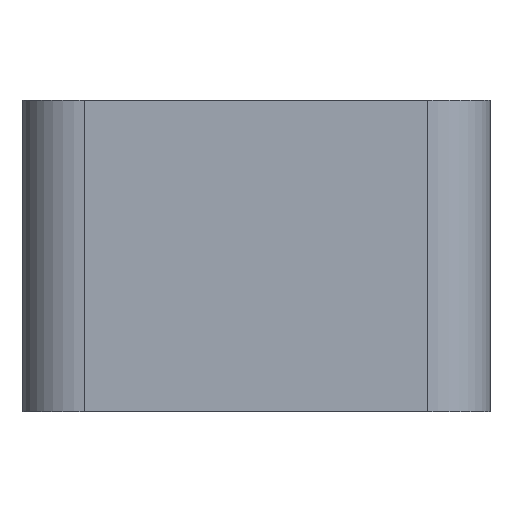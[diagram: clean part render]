
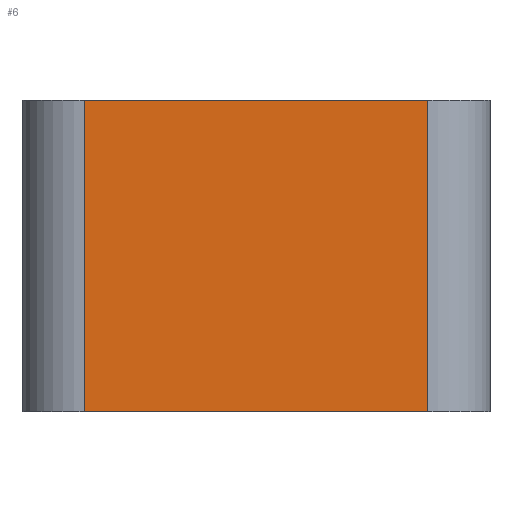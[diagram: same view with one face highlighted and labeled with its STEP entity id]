
A CAD part, front view. The second image highlights one B-rep face of the part: STEP entity #6.
In plain terms, the highlighted planar face has unit normal (0, -1, 0).
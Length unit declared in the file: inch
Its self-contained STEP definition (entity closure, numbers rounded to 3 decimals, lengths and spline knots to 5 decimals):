
#6 = ADVANCED_FACE ( 'NONE', ( #476 ), #350, .F. ) ;
#157 = DIRECTION ( 'NONE',  ( 0., 0., -1. ) ) ;
#158 = CARTESIAN_POINT ( 'NONE',  ( -0.20273, -2.84282, 0.5 ) ) ;
#164 = DIRECTION ( 'NONE',  ( 0., 0., 1. ) ) ;
#167 = CARTESIAN_POINT ( 'NONE',  ( 0.34727, -2.84282, 0.5 ) ) ;
#169 = DIRECTION ( 'NONE',  ( 1., 0., 0. ) ) ;
#180 = CARTESIAN_POINT ( 'NONE',  ( -0.30273, -2.84282, 0. ) ) ;
#184 = CARTESIAN_POINT ( 'NONE',  ( -0.30273, -2.84282, 0.5 ) ) ;
#185 = DIRECTION ( 'NONE',  ( 1., 0., 0. ) ) ;
#194 = CARTESIAN_POINT ( 'NONE',  ( -0.20273, -2.84282, 0.5 ) ) ;
#248 = CARTESIAN_POINT ( 'NONE',  ( 0.34727, -2.84282, 0.5 ) ) ;
#255 = CARTESIAN_POINT ( 'NONE',  ( 0.34727, -2.84282, 0. ) ) ;
#267 = CARTESIAN_POINT ( 'NONE',  ( -0.20273, -2.84282, 0. ) ) ;
#275 = AXIS2_PLACEMENT_3D ( 'NONE', #355, #360, #361 ) ;
#318 = EDGE_CURVE ( 'NONE', #389, #395, #482, .T. ) ;
#320 = EDGE_CURVE ( 'NONE', #335, #401, #652, .T. ) ;
#322 = EDGE_CURVE ( 'NONE', #335, #389, #484, .T. ) ;
#326 = EDGE_CURVE ( 'NONE', #395, #401, #466, .T. ) ;
#335 = VERTEX_POINT ( 'NONE', #194 ) ;
#350 = PLANE ( 'NONE',  #275 ) ;
#355 = CARTESIAN_POINT ( 'NONE',  ( -0.30273, -2.84282, 0.5 ) ) ;
#360 = DIRECTION ( 'NONE',  ( 0., 1., 0. ) ) ;
#361 = DIRECTION ( 'NONE',  ( 0., 0., 1. ) ) ;
#389 = VERTEX_POINT ( 'NONE', #267 ) ;
#395 = VERTEX_POINT ( 'NONE', #255 ) ;
#401 = VERTEX_POINT ( 'NONE', #248 ) ;
#442 = ORIENTED_EDGE ( 'NONE', *, *, #322, .T. ) ;
#466 = LINE ( 'NONE', #167, #576 ) ;
#476 = FACE_OUTER_BOUND ( 'NONE', #670, .T. ) ;
#478 = VECTOR ( 'NONE', #185, 39.37008 ) ;
#482 = LINE ( 'NONE', #180, #691 ) ;
#484 = LINE ( 'NONE', #158, #486 ) ;
#486 = VECTOR ( 'NONE', #157, 39.37008 ) ;
#517 = ORIENTED_EDGE ( 'NONE', *, *, #318, .T. ) ;
#575 = ORIENTED_EDGE ( 'NONE', *, *, #320, .F. ) ;
#576 = VECTOR ( 'NONE', #164, 39.37008 ) ;
#652 = LINE ( 'NONE', #184, #478 ) ;
#670 = EDGE_LOOP ( 'NONE', ( #517, #693, #575, #442 ) ) ;
#691 = VECTOR ( 'NONE', #169, 39.37008 ) ;
#693 = ORIENTED_EDGE ( 'NONE', *, *, #326, .T. ) ;
